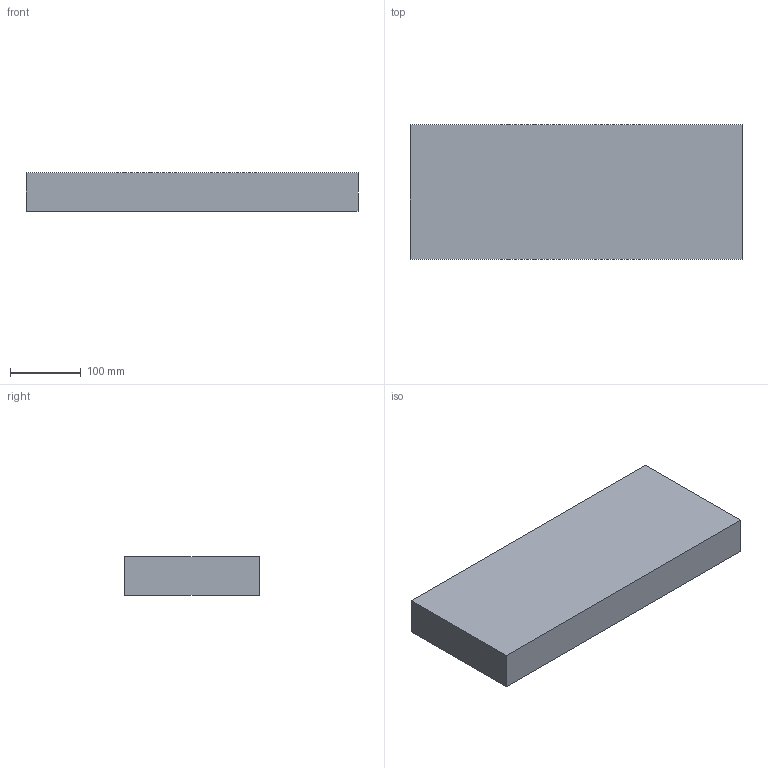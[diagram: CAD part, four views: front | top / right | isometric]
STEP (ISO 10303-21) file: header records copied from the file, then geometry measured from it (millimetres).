
FILE_DESCRIPTION( ( 'Unknown' ), '1' );
FILE_NAME( 'L:/P-Dwgs/P111/iM Case Assemblies/2435/Storm Case iM2435 internal_tub Files/2435-lid_internal_tub.stp', 'Unknown', ( 'Unknown' ), ( 'Unknown' ), 'PSStep 16.0.42', 'Unknown', ' ' );
FILE_SCHEMA( ( 'AUTOMOTIVE_DESIGN { 1 0 10303 214 1 1 1 1 }' ) );
Length unit declared in the file: millimetre
Products named in the file (1): 1
Bounding box: 469.9 x 190.5 x 53.98 mm (x, y, z)
Volume: 1914464.7 mm3; surface area: 315684.2 mm2
Topology: 1 solids, 1 shells, 106 faces, 243 edges, 128 vertices
Faces by surface type: cylinder 40, plane 24, bspline 22, torus 16, sphere 4
Entity records: 7047 total; most frequent: CARTESIAN_POINT 3976, DIRECTION 499, ORIENTED_EDGE 462, EDGE_CURVE 231, AXIS2_PLACEMENT_3D 203, VERTEX_POINT 128, EDGE_LOOP 107, ADVANCED_FACE 106
